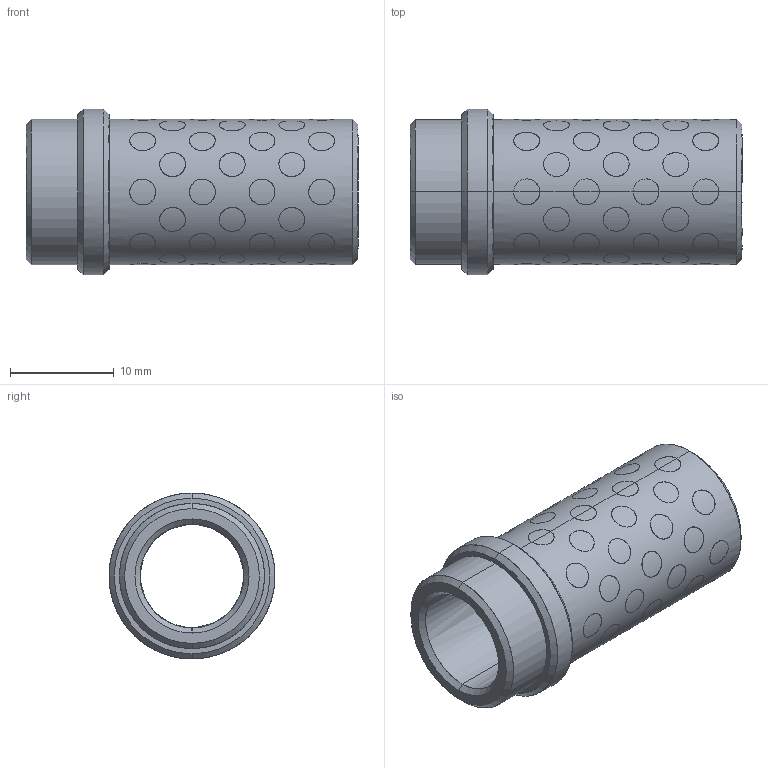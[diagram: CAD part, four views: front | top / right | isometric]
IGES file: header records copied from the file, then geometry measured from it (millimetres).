
Start section: START RECORD GO HERE.
Global section: file name: G31210027.igs; native system: DASSAULT SYSTEMES CATIA V5 R20 - www.3ds.com; preprocessor: CATIA Version 5 Release 20 ; author: r.borello; organization: CFTORINO; date: 20190624.122155; units: millimetre
Bounding box: 32 x 16 x 16 mm (x, y, z)
Surface area: 4369.7 mm2 (no closed solid volume)
Topology: 0 solids, 0 shells, 376 faces, 1632 edges, 1632 vertices
Faces by surface type: revolution 372, plane 4
